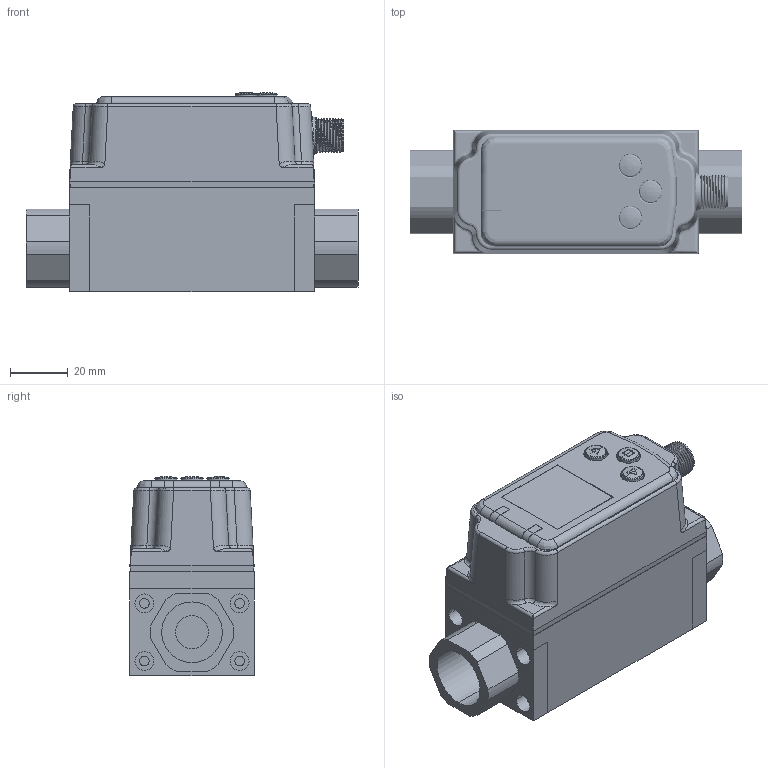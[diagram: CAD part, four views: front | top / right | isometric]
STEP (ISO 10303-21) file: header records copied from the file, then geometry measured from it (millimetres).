
FILE_DESCRIPTION((''),'2;1');
FILE_NAME('FXH_0001_ASM','2025-04-30T14:53:11',('admin'),(''),'CREO PARAMETRIC BY PTC INC, 2023073','CREO PARAMETRIC BY PTC INC, 2023073','');
FILE_SCHEMA(('CONFIG_CONTROL_DESIGN'));
Products named in the file (35): 50001; 071-316150001; 071-316160001; 071-316170001; 071-316180001; 071-316190001; 071-316200001; 071-316210001; 071-316220001; _0; 0001; 07190001_ASM; ADMI2E7CDAE9GQ3D_1; ADMI2E7CDAE9GQ3D_2; ADMI2E7CDAE9GQ3D_3; ADMI2E7CDAE9GQ3D_4; ADMI2E7CDAE9GQ3D_5; ADMI2E7CDAE9GQ3D_6; ADMI2E7CDAE9GQ3D_7; ADMI2E7CDAE9GQ3D_8; ADMI2E7CDAE9GQ3D_9; ADMI2E7CDAE9GQ3D_10; ADMI2E7CDAE9GQ3D_11; ADMI2E7CDAE9GQ3D_12; ADMI2E7CDAE9GQ3D_13; ADMI2E7CDAE9GQ3D_14; ADMI2E7CDAE9GQ3D_15; ADMI2E7CDAE9GQ3D_16; ADMI2E7CDAE9GQ3D_17; ADMI2E7CDAE9GQ3D_18; ADMI2E7CDAE9GQ3D_19; ADMI2E7CDAE9GQ3D_20; ADMI2E7CDAE9GQ3D_ASM; FXH-02000_ASM; FXH_0001_ASM
Assembly tree (36 placements, depth 4):
  FXH_0001_ASM
    07190001_ASM
      50001
      071-316150001
      071-316160001
      071-316170001
      071-316180001
      071-316190001
      071-316200001
      071-316210001
      071-316220001
      _0  x2
      0001  x2
    FXH-02000_ASM
      ADMI2E7CDAE9GQ3D_ASM
        ADMI2E7CDAE9GQ3D_1
        ADMI2E7CDAE9GQ3D_2
        ADMI2E7CDAE9GQ3D_3
        ADMI2E7CDAE9GQ3D_4
        ADMI2E7CDAE9GQ3D_5
        ADMI2E7CDAE9GQ3D_6
        ADMI2E7CDAE9GQ3D_7
        ADMI2E7CDAE9GQ3D_8
        ADMI2E7CDAE9GQ3D_9
        ADMI2E7CDAE9GQ3D_10
        ADMI2E7CDAE9GQ3D_11
        ADMI2E7CDAE9GQ3D_12
        ADMI2E7CDAE9GQ3D_13
        ADMI2E7CDAE9GQ3D_14
        ADMI2E7CDAE9GQ3D_15
        ADMI2E7CDAE9GQ3D_16
        ADMI2E7CDAE9GQ3D_17
        ADMI2E7CDAE9GQ3D_18
        ADMI2E7CDAE9GQ3D_19
        ADMI2E7CDAE9GQ3D_20
Bounding box: 115 x 43 x 68.95 mm (x, y, z)
Volume: 233694 mm3; surface area: 107959.1 mm2
Topology: 29 solids, 42 shells, 3609 faces, 10448 edges, 7020 vertices
Faces by surface type: plane 1860, cylinder 1295, bspline 177, cone 177, torus 88, sphere 12
Entity records: 160941 total; most frequent: CARTESIAN_POINT 66928, ORIENTED_EDGE 20419, DIRECTION 18506, EDGE_CURVE 10273, VERTEX_POINT 6907, AXIS2_PLACEMENT_3D 6175, VECTOR 6156, LINE 6156
